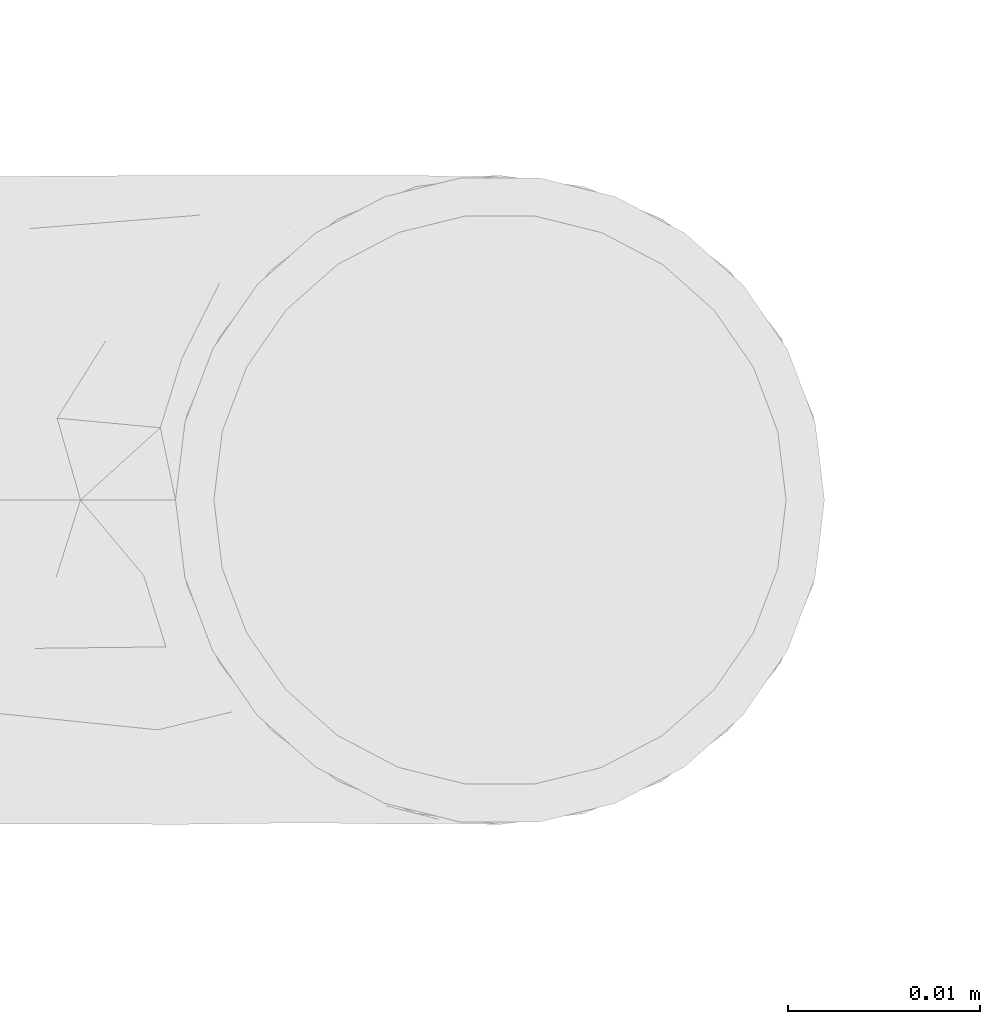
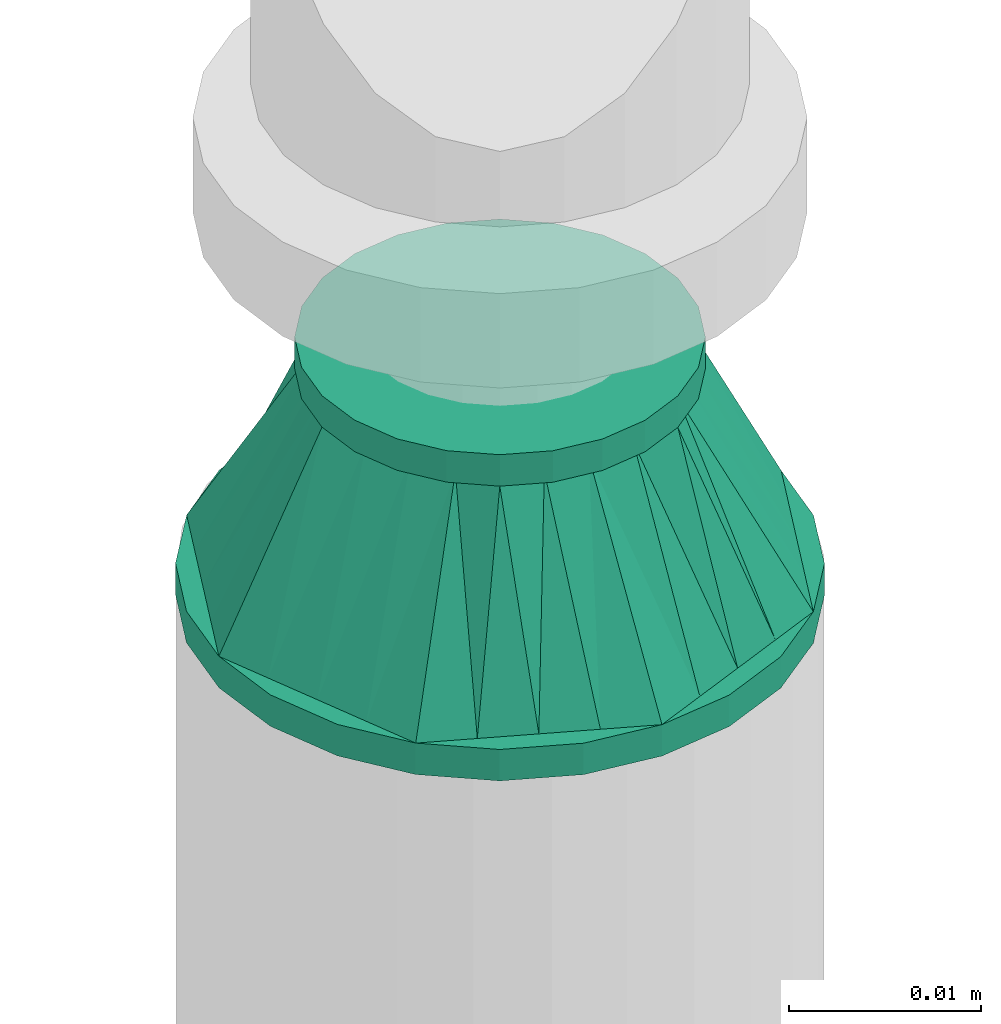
# One storey, part 52 of 94: 1 flow fitting.
"""IFC2X3 building model written with IfcOpenShell, lengths in millimetres."""

from ifc_helpers import new_model, entity, si_unit, converted_unit, derived_unit, direction, frame, origin_with_axes, place, context, subcontext, project, spatial, open_shell, surface_model, source, transform, mapped, type_object, element, save


model = new_model("IFC2X3")

# Units and contexts
model_context = context("Model", 3, precision=0.01, world=frame((0.0, 4.29681676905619e-09, 0.0)), true_north=direction((4.01073788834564e-13, 1.0)))
plan_context = context("Plan", 3, precision=0.01, world=frame((0.0, 4.29681676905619e-09, 0.0)), true_north=direction((4.01073788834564e-13, 1.0)))
body_context = subcontext(model_context, "Body", "Model", "MODEL_VIEW")
ifc_project = project(units=[converted_unit("PLANEANGLEUNIT", "DEGREE", entity("IfcPositiveLengthMeasure", 0.0174532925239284), si_unit("PLANEANGLEUNIT", "RADIAN"), dimensions=[0, 0, 0, 0, 0, 0, 0]), si_unit("AREAUNIT", "SQUARE_METRE"), si_unit("LENGTHUNIT", "METRE", prefix="MILLI"), si_unit("MASSUNIT", "GRAM", prefix="KILO"), si_unit("POWERUNIT", "WATT"), si_unit("PRESSUREUNIT", "PASCAL", prefix="KILO"), si_unit("FORCEUNIT", "NEWTON", prefix="KILO"), si_unit("ELECTRICVOLTAGEUNIT", "VOLT"), si_unit("ELECTRICCURRENTUNIT", "AMPERE"), si_unit("THERMODYNAMICTEMPERATUREUNIT", "DEGREE_CELSIUS"), si_unit("TIMEUNIT", "SECOND"), si_unit("VOLUMEUNIT", "CUBIC_METRE"), derived_unit("LINEARVELOCITYUNIT", [(si_unit("LENGTHUNIT", "METRE"), 1), (si_unit("TIMEUNIT", "SECOND"), -1)]), derived_unit("VOLUMETRICFLOWRATEUNIT", [(si_unit("VOLUMEUNIT", "CUBIC_METRE"), 1), (si_unit("TIMEUNIT", "SECOND"), -1)]), derived_unit("THERMALTRANSMITTANCEUNIT", [(si_unit("POWERUNIT", "WATT"), 1), (si_unit("THERMODYNAMICTEMPERATUREUNIT", "KELVIN"), -1), (si_unit("AREAUNIT", "SQUARE_METRE"), -1)]), derived_unit("SOUNDPRESSUREUNIT", [(si_unit("PRESSUREUNIT", "PASCAL"), 1)])], contexts=[model_context, plan_context])

# Site, building, storey
site_placement = place(None, frame((0.0, -4.29681676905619e-09, 0.0), z_axis=(0.0, 0.0, 1.0), x_axis=(1.0, 0.0, 0.0)))
site = spatial("IfcSite", under=ifc_project, at=site_placement, CompositionType="ELEMENT")
building_placement = place(site_placement, frame((0.0, 4.29681676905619e-09, 0.0), z_axis=(0.0, 0.0, 1.0), x_axis=(1.0, 0.0, 0.0)))
building = spatial("IfcBuilding", under=site, at=building_placement, Name="mc-building", CompositionType="ELEMENT")
storey_placement = place(building_placement, frame((0.0, 0.0, 210900.0), z_axis=(0.0, 0.0, 1.0), x_axis=(1.0, 0.0, 0.0)))
storey = spatial("IfcBuildingStorey", under=building, at=storey_placement, Name="Nivå F", CompositionType="ELEMENT", Elevation=210900.0)

# Flow fitting
pipe_fitting_type = type_object("IfcPipeFittingType", Name="magi_pipe_fe_reducer_centric_short_NOR", PredefinedType="TRANSITION")
shared_shape = source(origin_with_axes(), body_context, "Body", "SurfaceModel", [
    surface_model("IfcShellBasedSurfaceModel", [(14.4, 5.35, -9.26647), (14.4, 0.0, -10.7), (14.4, 2.76936, -10.33541), (14.4, 10.33541, -2.76936), (14.4, 7.56604, -7.56604), (14.4, -10.33541, -2.76936), (14.4, 9.26647, -5.35), (14.4, 0.0, 10.7), (14.4, -5.35, -9.26647), (14.4, -2.76936, -10.33541), (14.4, -7.56604, -7.56604), (14.4, -9.26647, -5.35), (14.4, 10.7, 0.0), (14.4, 10.33541, 2.76936), (14.4, 9.26647, 5.35), (14.4, 7.56604, 7.56604), (14.4, 2.76936, 10.33541), (14.4, 5.35, 9.26647), (14.4, -10.33541, 2.76936), (14.4, -7.56604, 7.56604), (14.4, -9.26647, 5.35), (14.4, -10.7, 0.0), (14.4, -2.76936, 10.33541), (14.4, -5.35, 9.26647), (12.4, 2.76936, 10.33541), (12.4, -10.33541, -2.76936), (12.4, 0.0, 10.7), (12.4, 5.35, 9.26647), (12.4, 7.56604, 7.56604), (12.4, 9.26647, 5.35), (12.4, 10.33541, 2.76936), (12.4, -10.33541, 2.76936), (12.4, -2.76936, 10.33541), (12.4, -7.56604, 7.56604), (12.4, -5.35, 9.26647), (12.4, -9.26647, 5.35), (12.4, -10.7, 0.0), (12.4, 10.33541, -2.76936), (12.4, 5.35, -9.26647), (12.4, 9.26647, -5.35), (12.4, 7.56604, -7.56604), (12.4, 2.76936, -10.33541), (12.4, -9.26647, -5.35), (12.4, -5.35, -9.26647), (12.4, -7.56604, -7.56604), (12.4, 0.0, -10.7), (12.4, -2.76936, -10.33541), (12.4, 10.7, 0.0), (-2.0, 11.9501, 11.9501), (-2.0, 0.0, 16.9), (-2.0, 4.37404, 16.32415), (-2.0, 8.45, 14.63583), (-2.0, 14.63583, 8.45), (-2.0, 16.32415, 4.37404), (-2.0, -16.32415, 4.37404), (-2.0, -8.45, 14.63583), (-2.0, -14.63583, 8.45), (-2.0, -11.9501, 11.9501), (-2.0, -4.37404, 16.32415), (-2.0, -16.32415, -4.37404), (-2.0, -16.9, 0.0), (-2.0, -8.45, -14.63583), (-2.0, 16.32415, -4.37404), (-2.0, 11.9501, -11.9501), (-2.0, 14.63583, -8.45), (-2.0, 8.45, -14.63583), (-2.0, 4.37404, -16.32415), (-2.0, 0.0, -16.9), (-2.0, -11.9501, -11.9501), (-2.0, -14.63583, -8.45), (-2.0, -4.37404, -16.32415), (-2.0, 16.9, 0.0), (0.0, 4.37404, -16.32415), (0.0, 8.45, -14.63583), (0.0, 11.9501, -11.9501), (0.0, 0.0, -16.9), (0.0, 16.32415, -4.37404), (0.0, 16.32415, 4.37404), (0.0, 14.63583, -8.45), (0.0, -8.45, -14.63583), (0.0, -4.37404, -16.32415), (0.0, -11.9501, -11.9501), (0.0, -16.32415, -4.37404), (0.0, -14.63583, -8.45), (0.0, -16.32415, 4.37404), (0.0, 16.9, 0.0), (0.0, 14.63583, 8.45), (0.0, 11.9501, 11.9501), (0.0, 4.37404, 16.32415), (0.0, 8.45, 14.63583), (0.0, 0.0, 16.9), (0.0, -14.63583, 8.45), (0.0, -16.9, 0.0), (0.0, -8.45, 14.63583), (0.0, -11.9501, 11.9501), (0.0, -4.37404, 16.32415), (12.4, 9.3625, -2.31662), (0.0, 14.42505, -5.97505), (0.0, 15.66253, -2.98753), (12.4, -6.6875, -6.94985), (0.0, -13.18758, -8.96258), (0.0, 2.98753, -15.66253), (12.4, 0.0, -9.26647), (12.4, 6.6875, -6.94985), (0.0, 8.96258, -13.18758), (12.4, -9.3625, -2.31662), (0.0, -15.66253, -2.98753), (0.0, -14.42505, -5.97505), (0.0, 5.97505, -14.42505), (0.0, -2.98753, -15.66253), (0.0, -8.96258, -13.18758), (0.0, 13.18758, -8.96258), (12.4, 8.025, -4.63324), (12.4, -2.675, -9.26647), (12.4, 2.675, -9.26647), (0.0, -5.97505, -14.42505), (12.4, -8.025, -4.63324), (12.4, -9.3625, 2.31662), (0.0, -14.42505, 5.97505), (0.0, -15.66253, 2.98753), (12.4, 6.6875, 6.94985), (0.0, 13.18758, 8.96258), (0.0, -2.98753, 15.66253), (12.4, 0.0, 9.26647), (12.4, -6.6875, 6.94985), (0.0, -8.96258, 13.18758), (12.4, 9.3625, 2.31662), (0.0, 15.66253, 2.98753), (0.0, 14.42505, 5.97505), (0.0, -5.97505, 14.42505), (0.0, 2.98753, 15.66253), (0.0, 8.96258, 13.18758), (0.0, -13.18758, 8.96258), (12.4, -8.025, 4.63324), (12.4, 2.675, 9.26647), (12.4, -2.675, 9.26647), (0.0, 5.97505, 14.42505), (12.4, 8.025, 4.63324)], [open_shell([[[0, 1, 2]], [[3, 0, 4]], [[5, 0, 3]], [[3, 4, 6]], [[7, 5, 3]], [[1, 8, 9]], [[1, 0, 8]], [[10, 5, 11]], [[5, 10, 8]], [[0, 5, 8]], [[3, 12, 13]], [[13, 14, 15]], [[13, 15, 16]], [[7, 3, 16]], [[16, 15, 17]], [[7, 18, 5]], [[18, 19, 20]], [[21, 5, 18]], [[19, 22, 23]], [[22, 19, 18]], [[7, 22, 18]], [[13, 16, 3]], [[24, 25, 26]], [[27, 25, 24]], [[28, 29, 30]], [[28, 25, 27]], [[31, 26, 25]], [[32, 33, 34]], [[33, 32, 31]], [[33, 31, 35]], [[32, 26, 31]], [[31, 25, 36]], [[30, 37, 28]], [[25, 28, 37]], [[38, 37, 39]], [[37, 38, 25]], [[38, 39, 40]], [[41, 25, 38]], [[42, 43, 44]], [[43, 42, 25]], [[43, 45, 46]], [[43, 25, 41]], [[41, 45, 43]], [[37, 30, 47]], [[25, 5, 36]], [[42, 11, 25]], [[8, 44, 43]], [[42, 44, 10]], [[9, 43, 46]], [[25, 11, 5]], [[5, 21, 36]], [[9, 8, 43]], [[10, 44, 8]], [[10, 11, 42]], [[1, 9, 46]], [[46, 45, 1]], [[41, 2, 45]], [[38, 0, 41]], [[6, 40, 39]], [[38, 40, 4]], [[3, 39, 37]], [[38, 4, 0]], [[0, 2, 41]], [[12, 3, 37]], [[6, 39, 3]], [[6, 4, 40]], [[47, 12, 37]], [[45, 2, 1]], [[30, 13, 47]], [[29, 14, 30]], [[17, 28, 27]], [[29, 28, 15]], [[16, 27, 24]], [[30, 14, 13]], [[13, 12, 47]], [[16, 17, 27]], [[15, 28, 17]], [[15, 14, 29]], [[7, 16, 24]], [[24, 26, 7]], [[32, 22, 26]], [[34, 23, 32]], [[20, 33, 35]], [[34, 33, 19]], [[18, 35, 31]], [[34, 19, 23]], [[23, 22, 32]], [[21, 18, 31]], [[20, 35, 18]], [[20, 19, 33]], [[36, 21, 31]], [[26, 22, 7]], [[48, 49, 50]], [[48, 50, 51]], [[48, 52, 53]], [[48, 53, 49]], [[49, 53, 54]], [[55, 56, 57]], [[55, 58, 49]], [[56, 55, 49]], [[49, 54, 56]], [[54, 59, 60]], [[54, 53, 61]], [[53, 62, 63]], [[63, 62, 64]], [[63, 65, 66]], [[61, 53, 63]], [[67, 63, 66]], [[59, 68, 69]], [[68, 59, 61]], [[61, 67, 70]], [[59, 54, 61]], [[63, 67, 61]], [[53, 71, 62]], [[72, 73, 74]], [[75, 72, 74]], [[74, 76, 77]], [[76, 74, 78]], [[74, 77, 79]], [[75, 79, 80]], [[75, 74, 79]], [[81, 82, 83]], [[82, 81, 79]], [[79, 84, 82]], [[77, 76, 85]], [[77, 86, 87]], [[77, 87, 88]], [[88, 84, 79]], [[88, 87, 89]], [[84, 88, 90]], [[90, 91, 84]], [[92, 82, 84]], [[91, 93, 94]], [[91, 90, 93]], [[93, 90, 95]], [[79, 77, 88]], [[59, 82, 60]], [[69, 83, 59]], [[79, 68, 61]], [[69, 68, 81]], [[80, 61, 70]], [[59, 83, 82]], [[82, 92, 60]], [[80, 79, 61]], [[81, 68, 79]], [[81, 83, 69]], [[75, 80, 70]], [[70, 67, 75]], [[66, 72, 67]], [[65, 73, 66]], [[78, 63, 64]], [[65, 63, 74]], [[76, 64, 62]], [[65, 74, 73]], [[73, 72, 66]], [[85, 76, 62]], [[78, 64, 76]], [[78, 74, 63]], [[71, 85, 62]], [[67, 72, 75]], [[53, 77, 71]], [[52, 86, 53]], [[89, 48, 51]], [[52, 48, 87]], [[88, 51, 50]], [[53, 86, 77]], [[77, 85, 71]], [[88, 89, 51]], [[87, 48, 89]], [[87, 86, 52]], [[90, 88, 50]], [[50, 49, 90]], [[58, 95, 49]], [[55, 93, 58]], [[91, 57, 56]], [[55, 57, 94]], [[84, 56, 54]], [[55, 94, 93]], [[93, 95, 58]], [[92, 84, 54]], [[91, 56, 84]], [[91, 94, 57]], [[60, 92, 54]], [[49, 95, 90]], [[27, 34, 47]], [[47, 34, 43]], [[43, 38, 47]], [[43, 34, 36]], [[90, 87, 94]], [[92, 94, 87]], [[87, 74, 92]], [[75, 92, 74]], [[81, 92, 75]], [[74, 87, 85]], [[96, 97, 98]], [[81, 99, 100]], [[101, 102, 75]], [[98, 85, 47]], [[74, 103, 104]], [[104, 103, 38]], [[105, 106, 107]], [[38, 108, 104]], [[102, 109, 75]], [[110, 99, 81]], [[47, 96, 98]], [[103, 111, 112]], [[109, 102, 113]], [[36, 92, 106]], [[102, 101, 114]], [[110, 115, 43]], [[96, 112, 97]], [[107, 116, 105]], [[36, 106, 105]], [[113, 115, 109]], [[43, 115, 113]], [[116, 107, 100]], [[108, 38, 114]], [[111, 103, 74]], [[111, 97, 112]], [[99, 110, 43]], [[116, 100, 99]], [[101, 108, 114]], [[117, 118, 119]], [[87, 120, 121]], [[122, 123, 90]], [[119, 92, 36]], [[94, 124, 125]], [[125, 124, 34]], [[126, 127, 128]], [[34, 129, 125]], [[123, 130, 90]], [[131, 120, 87]], [[36, 117, 119]], [[124, 132, 133]], [[130, 123, 134]], [[47, 85, 127]], [[123, 122, 135]], [[131, 136, 27]], [[117, 133, 118]], [[128, 137, 126]], [[47, 127, 126]], [[134, 136, 130]], [[27, 136, 134]], [[137, 128, 121]], [[129, 34, 135]], [[132, 124, 94]], [[132, 118, 133]], [[120, 131, 27]], [[137, 121, 120]], [[122, 129, 135]]])]),
])
flow_fitting_placement = place(storey_placement, frame((725923.83068, 435194.37907, 4357.64799999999), z_axis=(-0.000893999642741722, -0.99999960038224, 0.0), x_axis=(0.0, 0.0, 1.0)))
element("IfcFlowFitting", 1, at=flow_fitting_placement, inside=storey, type_object=pipe_fitting_type, Name="magi_pipe_fe_reducer_centric_short_NOR", context=body_context, shape_type="MappedRepresentation", body=[
    mapped(shared_shape, transform((0.0, 0.0, 0.0), scale=1.0)),
])

save(model, "model.ifc")
